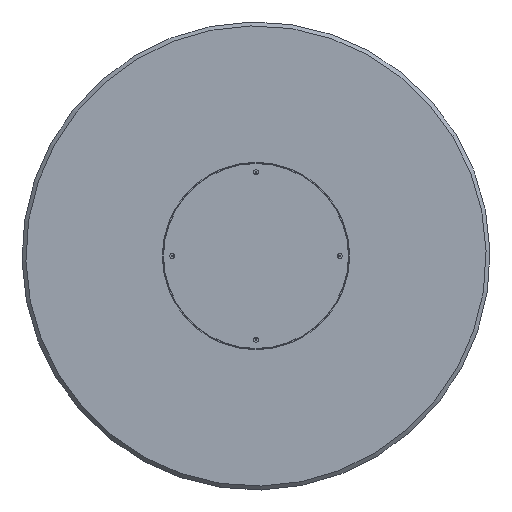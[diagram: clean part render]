
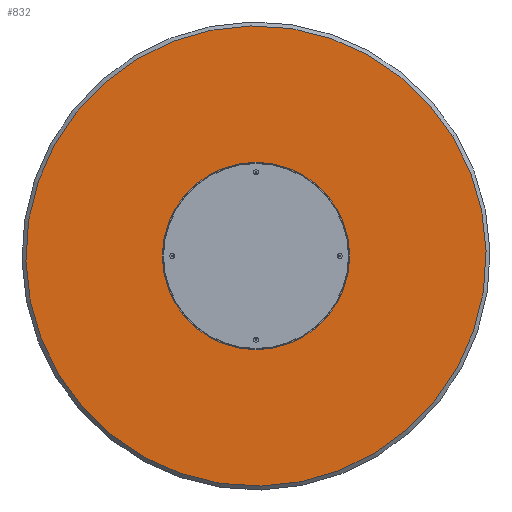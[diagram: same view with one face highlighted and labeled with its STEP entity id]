
A CAD part, front view. The second image highlights one B-rep face of the part: STEP entity #832.
In plain terms, the highlighted planar face has unit normal (0, -1, 0).
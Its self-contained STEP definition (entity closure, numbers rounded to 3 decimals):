
#7 = CARTESIAN_POINT ( 'NONE',  ( -95., 0., -51.448 ) ) ;
#65 = CIRCLE ( 'NONE', #3375, 3.4 ) ;
#114 = FACE_BOUND ( 'NONE', #4748, .T. ) ;
#157 = AXIS2_PLACEMENT_3D ( 'NONE', #2025, #2461, #3014 ) ;
#167 = CIRCLE ( 'NONE', #3177, 3.4 ) ;
#170 = ORIENTED_EDGE ( 'NONE', *, *, #4765, .F. ) ;
#218 = DIRECTION ( 'NONE',  ( 0., 0., -1. ) ) ;
#285 = CIRCLE ( 'NONE', #5999, 590. ) ;
#315 = DIRECTION ( 'NONE',  ( 0., -1., 0. ) ) ;
#364 = CIRCLE ( 'NONE', #157, 3.4 ) ;
#531 = EDGE_CURVE ( 'NONE', #4063, #3900, #2473, .T. ) ;
#632 = VERTEX_POINT ( 'NONE', #5126 ) ;
#669 = CIRCLE ( 'NONE', #1585, 590. ) ;
#832 = ADVANCED_FACE ( 'NONE', ( #2979, #114, #3068, #3948, #2608 ), #4507, .T. ) ;
#901 = EDGE_CURVE ( 'NONE', #2841, #632, #4558, .T. ) ;
#975 = CARTESIAN_POINT ( 'NONE',  ( 95., 0., -54.848 ) ) ;
#1031 = CARTESIAN_POINT ( 'NONE',  ( -95., 0., -54.848 ) ) ;
#1169 = EDGE_LOOP ( 'NONE', ( #2274, #170 ) ) ;
#1170 = CARTESIAN_POINT ( 'NONE',  ( 0., 0., 109.697 ) ) ;
#1373 = EDGE_LOOP ( 'NONE', ( #5497, #2264 ) ) ;
#1409 = CARTESIAN_POINT ( 'NONE',  ( 0., 0., 3.4 ) ) ;
#1430 = AXIS2_PLACEMENT_3D ( 'NONE', #975, #2888, #3377 ) ;
#1514 = CARTESIAN_POINT ( 'NONE',  ( -95., 0., -54.848 ) ) ;
#1576 = DIRECTION ( 'NONE',  ( 0., -1., 0. ) ) ;
#1585 = AXIS2_PLACEMENT_3D ( 'NONE', #1607, #3500, #5409 ) ;
#1607 = CARTESIAN_POINT ( 'NONE',  ( 0., 0., 0. ) ) ;
#1609 = EDGE_CURVE ( 'NONE', #632, #2841, #4747, .T. ) ;
#1695 = CARTESIAN_POINT ( 'NONE',  ( 0., 0., 0. ) ) ;
#1768 = DIRECTION ( 'NONE',  ( 0., 0., -1. ) ) ;
#1975 = AXIS2_PLACEMENT_3D ( 'NONE', #5004, #1576, #3471 ) ;
#2024 = VERTEX_POINT ( 'NONE', #4998 ) ;
#2025 = CARTESIAN_POINT ( 'NONE',  ( 95., 0., -54.848 ) ) ;
#2232 = CARTESIAN_POINT ( 'NONE',  ( -95., 0., -58.248 ) ) ;
#2264 = ORIENTED_EDGE ( 'NONE', *, *, #531, .F. ) ;
#2274 = ORIENTED_EDGE ( 'NONE', *, *, #3689, .F. ) ;
#2461 = DIRECTION ( 'NONE',  ( 0., -1., 0. ) ) ;
#2473 = CIRCLE ( 'NONE', #4462, 3.4 ) ;
#2535 = CARTESIAN_POINT ( 'NONE',  ( 95., 0., -58.248 ) ) ;
#2565 = AXIS2_PLACEMENT_3D ( 'NONE', #1170, #4052, #218 ) ;
#2608 = FACE_OUTER_BOUND ( 'NONE', #5995, .T. ) ;
#2646 = CARTESIAN_POINT ( 'NONE',  ( 0., 0., 0. ) ) ;
#2755 = EDGE_CURVE ( 'NONE', #3742, #4982, #364, .T. ) ;
#2841 = VERTEX_POINT ( 'NONE', #3953 ) ;
#2850 = CARTESIAN_POINT ( 'NONE',  ( 95., 0., -51.448 ) ) ;
#2888 = DIRECTION ( 'NONE',  ( 0., -1., 0. ) ) ;
#2907 = DIRECTION ( 'NONE',  ( 0., 0., -1. ) ) ;
#2949 = DIRECTION ( 'NONE',  ( 0., 0., -1. ) ) ;
#2979 = FACE_BOUND ( 'NONE', #1169, .T. ) ;
#3014 = DIRECTION ( 'NONE',  ( 0., 0., -1. ) ) ;
#3068 = FACE_BOUND ( 'NONE', #5016, .T. ) ;
#3145 = DIRECTION ( 'NONE',  ( 0., -1., 0. ) ) ;
#3157 = AXIS2_PLACEMENT_3D ( 'NONE', #3685, #5592, #5120 ) ;
#3177 = AXIS2_PLACEMENT_3D ( 'NONE', #1031, #3909, #2907 ) ;
#3375 = AXIS2_PLACEMENT_3D ( 'NONE', #1695, #3145, #3640 ) ;
#3377 = DIRECTION ( 'NONE',  ( 0., 0., -1. ) ) ;
#3460 = EDGE_CURVE ( 'NONE', #2024, #4011, #669, .T. ) ;
#3471 = DIRECTION ( 'NONE',  ( 0., 0., -1. ) ) ;
#3500 = DIRECTION ( 'NONE',  ( 0., -1., 0. ) ) ;
#3640 = DIRECTION ( 'NONE',  ( 0., 0., -1. ) ) ;
#3685 = CARTESIAN_POINT ( 'NONE',  ( 0., 0., 109.697 ) ) ;
#3689 = EDGE_CURVE ( 'NONE', #4876, #5734, #167, .T. ) ;
#3742 = VERTEX_POINT ( 'NONE', #2535 ) ;
#3800 = CIRCLE ( 'NONE', #5791, 3.4 ) ;
#3900 = VERTEX_POINT ( 'NONE', #5975 ) ;
#3909 = DIRECTION ( 'NONE',  ( 0., -1., 0. ) ) ;
#3927 = EDGE_CURVE ( 'NONE', #3900, #4063, #65, .T. ) ;
#3948 = FACE_BOUND ( 'NONE', #1373, .T. ) ;
#3953 = CARTESIAN_POINT ( 'NONE',  ( 0., 0., 106.297 ) ) ;
#4011 = VERTEX_POINT ( 'NONE', #4740 ) ;
#4052 = DIRECTION ( 'NONE',  ( 0., -1., 0. ) ) ;
#4063 = VERTEX_POINT ( 'NONE', #1409 ) ;
#4384 = EDGE_CURVE ( 'NONE', #4011, #2024, #285, .T. ) ;
#4462 = AXIS2_PLACEMENT_3D ( 'NONE', #6118, #315, #1768 ) ;
#4507 = PLANE ( 'NONE',  #1975 ) ;
#4558 = CIRCLE ( 'NONE', #3157, 3.4 ) ;
#4740 = CARTESIAN_POINT ( 'NONE',  ( 0., 0., 590. ) ) ;
#4747 = CIRCLE ( 'NONE', #2565, 3.4 ) ;
#4748 = EDGE_LOOP ( 'NONE', ( #6152, #5272 ) ) ;
#4765 = EDGE_CURVE ( 'NONE', #5734, #4876, #3800, .T. ) ;
#4876 = VERTEX_POINT ( 'NONE', #2232 ) ;
#4982 = VERTEX_POINT ( 'NONE', #2850 ) ;
#4998 = CARTESIAN_POINT ( 'NONE',  ( 0., 0., -590. ) ) ;
#5004 = CARTESIAN_POINT ( 'NONE',  ( 0., 0., 0. ) ) ;
#5016 = EDGE_LOOP ( 'NONE', ( #5156, #5822 ) ) ;
#5120 = DIRECTION ( 'NONE',  ( 0., 0., -1. ) ) ;
#5126 = CARTESIAN_POINT ( 'NONE',  ( 0., 0., 113.097 ) ) ;
#5156 = ORIENTED_EDGE ( 'NONE', *, *, #901, .F. ) ;
#5173 = ORIENTED_EDGE ( 'NONE', *, *, #3460, .T. ) ;
#5272 = ORIENTED_EDGE ( 'NONE', *, *, #6002, .F. ) ;
#5330 = ORIENTED_EDGE ( 'NONE', *, *, #4384, .T. ) ;
#5379 = DIRECTION ( 'NONE',  ( 0., -1., 0. ) ) ;
#5409 = DIRECTION ( 'NONE',  ( 0., 0., -1. ) ) ;
#5481 = DIRECTION ( 'NONE',  ( 0., 0., -1. ) ) ;
#5497 = ORIENTED_EDGE ( 'NONE', *, *, #3927, .F. ) ;
#5592 = DIRECTION ( 'NONE',  ( 0., -1., 0. ) ) ;
#5601 = DIRECTION ( 'NONE',  ( 0., -1., 0. ) ) ;
#5734 = VERTEX_POINT ( 'NONE', #7 ) ;
#5791 = AXIS2_PLACEMENT_3D ( 'NONE', #1514, #5379, #2949 ) ;
#5822 = ORIENTED_EDGE ( 'NONE', *, *, #1609, .F. ) ;
#5975 = CARTESIAN_POINT ( 'NONE',  ( 0., 0., -3.4 ) ) ;
#5995 = EDGE_LOOP ( 'NONE', ( #5330, #5173 ) ) ;
#5999 = AXIS2_PLACEMENT_3D ( 'NONE', #2646, #5601, #5481 ) ;
#6002 = EDGE_CURVE ( 'NONE', #4982, #3742, #6120, .T. ) ;
#6118 = CARTESIAN_POINT ( 'NONE',  ( 0., 0., 0. ) ) ;
#6120 = CIRCLE ( 'NONE', #1430, 3.4 ) ;
#6152 = ORIENTED_EDGE ( 'NONE', *, *, #2755, .F. ) ;
